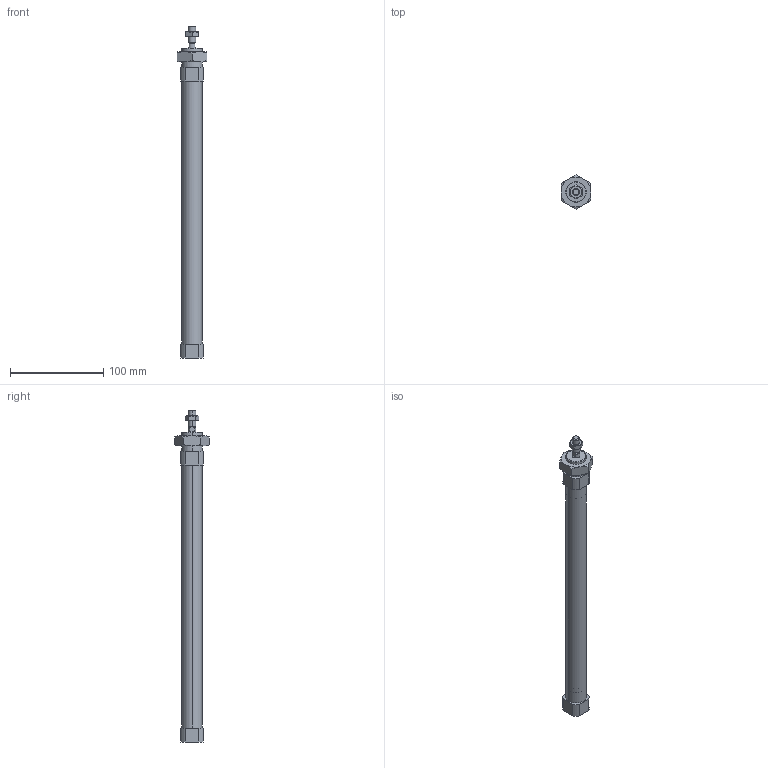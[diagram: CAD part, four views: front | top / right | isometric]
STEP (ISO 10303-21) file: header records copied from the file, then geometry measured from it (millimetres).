
FILE_DESCRIPTION (( 'STEP AP214' ), '1' );
FILE_NAME ('CD85N20-250-B.step.step', '2023-01-05T23:12:40', ( '' ), ( '' ), 'SwSTEP 2.0', 'SolidWorks 2022', '' );
FILE_SCHEMA (( 'AUTOMOTIVE_DESIGN' ));
Length unit declared in the file: millimetre
Products named in the file (7): CD85N20-250-B.step_ROD1_20; CD85N20-250-B.step_END_COVER_20BC; CD85N20-250-B.step_END_COVER_20E1; CD85N20-250-B.step_NT-SN_NUT_C85SN25; CD85N20-250-B.step_TUBE1_20; CD85N20-250-B.step_NT-SN_NUT_M8; CD85N20-250-B.step
Assembly tree (6 placements, depth 2):
  CD85N20-250-B.step
    CD85N20-250-B.step_TUBE1_20
    CD85N20-250-B.step_END_COVER_20E1
    CD85N20-250-B.step_END_COVER_20BC
    CD85N20-250-B.step_ROD1_20
    CD85N20-250-B.step_NT-SN_NUT_M8
    CD85N20-250-B.step_NT-SN_NUT_C85SN25
Bounding box: 32 x 36.95 x 356 mm (x, y, z)
Volume: 66591.8 mm3; surface area: 56618 mm2
Topology: 6 solids, 6 shells, 109 faces, 254 edges, 161 vertices
Faces by surface type: plane 44, cylinder 39, cone 26
Entity records: 3702 total; most frequent: CARTESIAN_POINT 965, DIRECTION 522, ORIENTED_EDGE 504, EDGE_CURVE 252, AXIS2_PLACEMENT_3D 214, VERTEX_POINT 161, EDGE_LOOP 123, FACE_OUTER_BOUND 109
